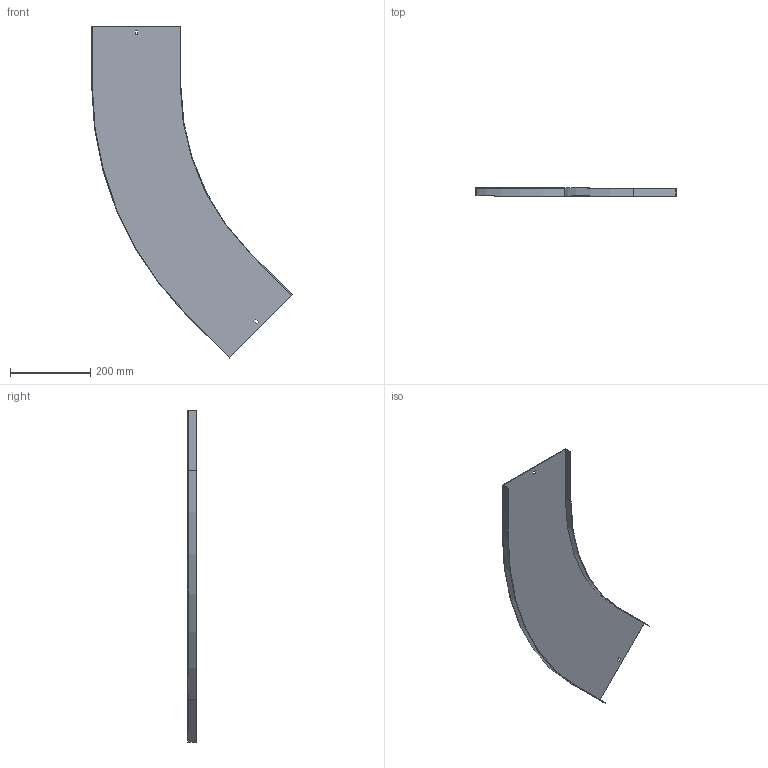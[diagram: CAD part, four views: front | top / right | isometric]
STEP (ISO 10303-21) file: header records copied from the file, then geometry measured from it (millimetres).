
FILE_DESCRIPTION (( 'STEP AP214' ), '1' );
FILE_NAME ('11N6P200.step', '2025-02-21T13:35:26', ( '' ), ( '' ), 'SwSTEP 2.0', 'SolidWorks 2023', '' );
FILE_SCHEMA (( 'AUTOMOTIVE_DESIGN' ));
Length unit declared in the file: millimetre
Products named in the file (1): 11N6P200
Bounding box: 501.43 x 20 x 829.88 mm (x, y, z)
Volume: 331238.2 mm3; surface area: 445073.3 mm2
Topology: 1 solids, 1 shells, 26 faces, 72 edges, 48 vertices
Faces by surface type: plane 22, cylinder 4
Entity records: 855 total; most frequent: CARTESIAN_POINT 147, ORIENTED_EDGE 144, DIRECTION 134, EDGE_CURVE 72, VECTOR 64, LINE 64, VERTEX_POINT 48, AXIS2_PLACEMENT_3D 35
